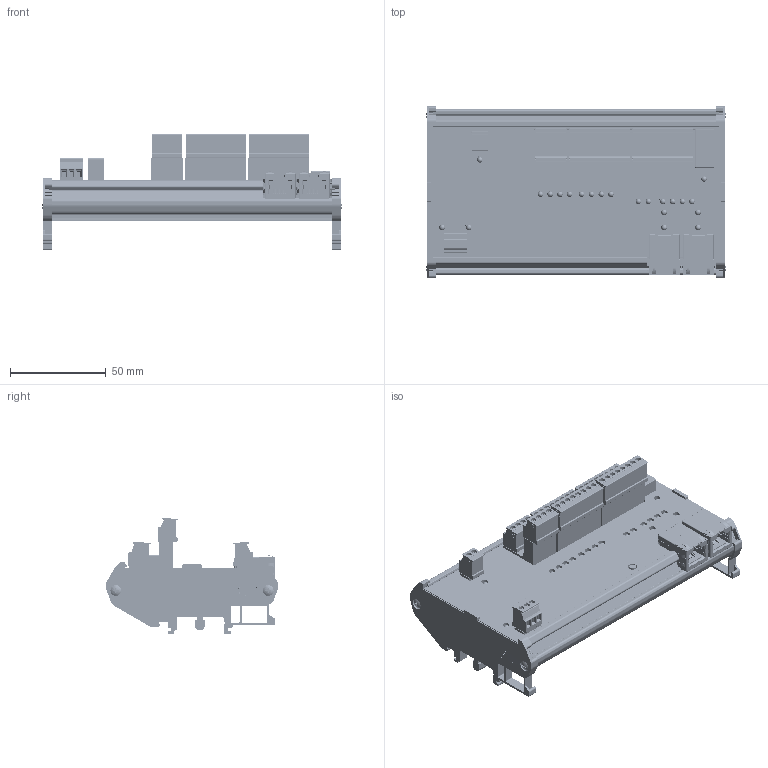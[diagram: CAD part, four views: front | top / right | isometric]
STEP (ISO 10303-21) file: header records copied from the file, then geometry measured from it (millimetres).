
FILE_DESCRIPTION(/* description */ (''),/* implementation_level */ '2;1');
FILE_NAME(/* name */ 'CNIP-IO 4281-0000 v10.step',/* time_stamp */ '2023-04-19T13:30:56-04:00',/* author */ (''),/* organization */ (''),/* preprocessor_version */ 'ST-DEVELOPER v19.2',/* originating_system */ 'Autodesk Translation Framework v11.17.0.187',/* authorisation */ '');
FILE_SCHEMA (('AUTOMOTIVE_DESIGN { 1 0 10303 214 3 1 1 }'));
Products named in the file (36): CNIP; CNIP Mounting Channel; CNIP_1; CNIP_CNIP Cap Right; CNIP PCB; ACC-M-RJE60-188-5X01-REVT1; IQ-Map Power Terminal PCB; 1803426; pxc_1803439_03_MCV-1-5-3-G-3-81_3D; MCV_1_5-3-G-3_81; pxc_1830428_01_MCDV-1-5-4-G-3-81_3D; mcdv_1.5-4-g-3.81; pxc_1830460_01_MCDV-1-5-8-G-3-81_3D; pxc_1830460_01_MCDV-1-5-8-G-3-81_3D_1; mcdv_1.5-8-g-3.81; Button; LED 2 Color; LED 2 Color (1); LED 2 Color (2); LED 1 Color; LED 1 Color (1); Relay; PCB; CNIP Face Plate; CNIP Screw M3x5; IQ-Zonz Terminal Block Power; pxc_1827143_04_MCVR-1-5-4-ST-3-81_3D; pxc_1827143_04_MCVR-1-5-4-ST-3-81_3D_1; mcvr_1.5-4-st-3.81; pxc_1827185_02_MCVR-1-5-8-ST-3-81_3D; pxc_1827185_02_MCVR-1-5-8-ST-3-81_3D_1; pxc_1827185_02_MCVR-1-5-8-ST-3-81_3D_2; pxc_1827185_02_MCVR-1-5-8-ST-3-81_3D_3; mcvr_1.5-8-st-3.81; pxc_1827130_05_MCVR-1-5-3-ST-3-81_3D; mcvr_1.5-3-st-3.81
Assembly tree (61 placements, depth 4):
  CNIP
    CNIP Mounting Channel
    CNIP_1
    CNIP_CNIP Cap Right
    CNIP PCB
      ACC-M-RJE60-188-5X01-REVT1  x2
      IQ-Map Power Terminal PCB
        1803426
      pxc_1803439_03_MCV-1-5-3-G-3-81_3D
        MCV_1_5-3-G-3_81
      pxc_1830428_01_MCDV-1-5-4-G-3-81_3D
        mcdv_1.5-4-g-3.81
      pxc_1830460_01_MCDV-1-5-8-G-3-81_3D
        mcdv_1.5-8-g-3.81
      pxc_1830460_01_MCDV-1-5-8-G-3-81_3D_1
        mcdv_1.5-8-g-3.81
      Button
      LED 2 Color
      LED 2 Color (1)
      LED 2 Color (2)
      LED 1 Color  x13
      LED 1 Color (1)  x6
      Relay
      PCB
    CNIP Face Plate
    CNIP Screw M3x5  x4
    IQ-Zonz Terminal Block Power
    pxc_1827143_04_MCVR-1-5-4-ST-3-81_3D
      mcvr_1.5-4-st-3.81
    pxc_1827143_04_MCVR-1-5-4-ST-3-81_3D_1
      mcvr_1.5-4-st-3.81
    pxc_1827185_02_MCVR-1-5-8-ST-3-81_3D
      mcvr_1.5-8-st-3.81
    pxc_1827185_02_MCVR-1-5-8-ST-3-81_3D_1
      mcvr_1.5-8-st-3.81
    pxc_1827185_02_MCVR-1-5-8-ST-3-81_3D_2
      mcvr_1.5-8-st-3.81
    pxc_1827185_02_MCVR-1-5-8-ST-3-81_3D_3
      mcvr_1.5-8-st-3.81
    pxc_1827130_05_MCVR-1-5-3-ST-3-81_3D
      mcvr_1.5-3-st-3.81
Bounding box: 156.78 x 89.6 x 60.6 mm (x, y, z)
Volume: 135193.2 mm3; surface area: 153477 mm2
Topology: 95 solids, 95 shells, 10977 faces, 28816 edges, 18725 vertices
Faces by surface type: plane 8157, cylinder 2222, bspline 339, sphere 116, torus 82, cone 61
Full cylindrical faces by diameter (mm): 0.457 x13, 0.508 x10, 0.762 x47, 0.787 x15, 0.889 x16, 0.9 x4, 0.913 x2, 1.016 x12, 1.2 x45, 1.27 x4, 1.5 x4, 1.524 x45, 1.6 x74, 2.8 x45, 2.9 x45, 3 x28, 3.2 x4, 3.4 x4, 3.5 x1, 3.505 x22, 5.08 x1, 5.6 x4, 6 x4
Entity records: 226885 total; most frequent: CARTESIAN_POINT 63801, ORIENTED_EDGE 33288, DIRECTION 32015, EDGE_CURVE 16644, LINE 12845, VECTOR 12845, VERTEX_POINT 10805, AXIS2_PLACEMENT_3D 9585
